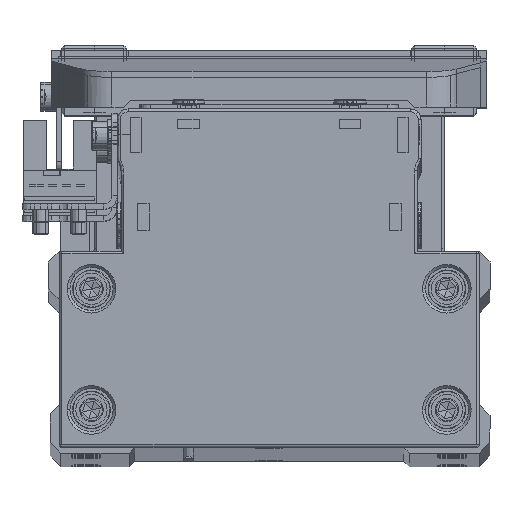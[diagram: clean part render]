
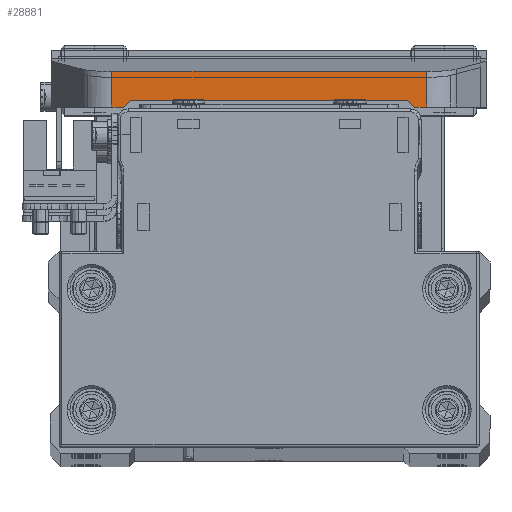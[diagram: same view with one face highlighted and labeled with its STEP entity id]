
A CAD part, top view. The second image highlights one B-rep face of the part: STEP entity #28881.
In plain terms, the highlighted planar face has unit normal (0, 0, 1) as drawn and (-1, 0, 0) by its records, which use the part's own axes.
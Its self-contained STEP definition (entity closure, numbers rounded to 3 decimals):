
#226 = ORIENTED_EDGE ( 'NONE', *, *, #28599, .T. ) ;
#544 = CARTESIAN_POINT ( 'NONE',  ( -67.5, 10.6, 27. ) ) ;
#556 = DIRECTION ( 'NONE',  ( 0., 0., -1. ) ) ;
#886 = ORIENTED_EDGE ( 'NONE', *, *, #20779, .T. ) ;
#1401 = EDGE_CURVE ( 'NONE', #34333, #23743, #7124, .T. ) ;
#2316 = DIRECTION ( 'NONE',  ( 0., 0., -1. ) ) ;
#2500 = EDGE_CURVE ( 'NONE', #3965, #30033, #17873, .T. ) ;
#3626 = PLANE ( 'NONE',  #11547 ) ;
#3777 = CARTESIAN_POINT ( 'NONE',  ( -67.5, 10.6, -29.225 ) ) ;
#3965 = VERTEX_POINT ( 'NONE', #22793 ) ;
#4756 = VECTOR ( 'NONE', #13052, 1000. ) ;
#5587 = ORIENTED_EDGE ( 'NONE', *, *, #28523, .T. ) ;
#6027 = VECTOR ( 'NONE', #32105, 1000. ) ;
#6073 = VECTOR ( 'NONE', #10527, 1000. ) ;
#7124 = LINE ( 'NONE', #19603, #6027 ) ;
#7669 = ORIENTED_EDGE ( 'NONE', *, *, #32387, .T. ) ;
#8670 = ORIENTED_EDGE ( 'NONE', *, *, #1401, .F. ) ;
#8853 = EDGE_CURVE ( 'NONE', #30033, #12210, #28622, .T. ) ;
#10161 = CARTESIAN_POINT ( 'NONE',  ( -67.5, 10.6, -27. ) ) ;
#10527 = DIRECTION ( 'NONE',  ( 0., 0., -1. ) ) ;
#10620 = LINE ( 'NONE', #23116, #25264 ) ;
#11226 = DIRECTION ( 'NONE',  ( 0., 1., 0. ) ) ;
#11244 = DIRECTION ( 'NONE',  ( 0., 0., -1. ) ) ;
#11547 = AXIS2_PLACEMENT_3D ( 'NONE', #16121, #28631, #556 ) ;
#12122 = CARTESIAN_POINT ( 'NONE',  ( -67.5, 4., -29.225 ) ) ;
#12210 = VERTEX_POINT ( 'NONE', #22318 ) ;
#13052 = DIRECTION ( 'NONE',  ( 0., -0.655, -0.756 ) ) ;
#13381 = EDGE_LOOP ( 'NONE', ( #35459, #886, #226, #5587, #8670, #7669, #34498, #37961 ) ) ;
#16093 = VECTOR ( 'NONE', #11244, 1000. ) ;
#16121 = CARTESIAN_POINT ( 'NONE',  ( -67.5, 10.6, 40.4 ) ) ;
#16649 = CARTESIAN_POINT ( 'NONE',  ( -67.5, 9.3, -25.5 ) ) ;
#17873 = LINE ( 'NONE', #30381, #18547 ) ;
#18547 = VECTOR ( 'NONE', #2316, 1000. ) ;
#19603 = CARTESIAN_POINT ( 'NONE',  ( -67.5, 4., 40.4 ) ) ;
#20779 = EDGE_CURVE ( 'NONE', #36853, #36527, #38192, .T. ) ;
#21557 = VECTOR ( 'NONE', #11226, 1000. ) ;
#22318 = CARTESIAN_POINT ( 'NONE',  ( -67.5, 9.3, 25.5 ) ) ;
#22659 = DIRECTION ( 'NONE',  ( 0., 0.655, -0.756 ) ) ;
#22793 = CARTESIAN_POINT ( 'NONE',  ( -67.5, 10.6, 29.225 ) ) ;
#23116 = CARTESIAN_POINT ( 'NONE',  ( -67.5, 4., -29.225 ) ) ;
#23743 = VERTEX_POINT ( 'NONE', #12122 ) ;
#25264 = VECTOR ( 'NONE', #35592, 1000. ) ;
#26102 = LINE ( 'NONE', #38573, #6073 ) ;
#26464 = CARTESIAN_POINT ( 'NONE',  ( -67.5, 4., 29.225 ) ) ;
#26803 = LINE ( 'NONE', #39267, #21557 ) ;
#26818 = LINE ( 'NONE', #39282, #16093 ) ;
#28053 = VERTEX_POINT ( 'NONE', #3777 ) ;
#28523 = EDGE_CURVE ( 'NONE', #28053, #23743, #10620, .T. ) ;
#28599 = EDGE_CURVE ( 'NONE', #36527, #28053, #26818, .T. ) ;
#28622 = LINE ( 'NONE', #544, #4756 ) ;
#28631 = DIRECTION ( 'NONE',  ( 1., 0., 0. ) ) ;
#28881 = ADVANCED_FACE ( 'NONE', ( #31709 ), #3626, .F. ) ;
#29142 = CARTESIAN_POINT ( 'NONE',  ( -67.5, 10.6, 27. ) ) ;
#30033 = VERTEX_POINT ( 'NONE', #29142 ) ;
#30381 = CARTESIAN_POINT ( 'NONE',  ( -67.5, 10.6, 40.4 ) ) ;
#31709 = FACE_OUTER_BOUND ( 'NONE', #13381, .T. ) ;
#32105 = DIRECTION ( 'NONE',  ( 0., 0., -1. ) ) ;
#32387 = EDGE_CURVE ( 'NONE', #34333, #3965, #26803, .T. ) ;
#32903 = CARTESIAN_POINT ( 'NONE',  ( -67.5, 10.6, -27. ) ) ;
#34333 = VERTEX_POINT ( 'NONE', #26464 ) ;
#34498 = ORIENTED_EDGE ( 'NONE', *, *, #2500, .T. ) ;
#35459 = ORIENTED_EDGE ( 'NONE', *, *, #38209, .T. ) ;
#35592 = DIRECTION ( 'NONE',  ( 0., -1., 0. ) ) ;
#36527 = VERTEX_POINT ( 'NONE', #32903 ) ;
#36853 = VERTEX_POINT ( 'NONE', #16649 ) ;
#37961 = ORIENTED_EDGE ( 'NONE', *, *, #8853, .T. ) ;
#38192 = LINE ( 'NONE', #10161, #38832 ) ;
#38209 = EDGE_CURVE ( 'NONE', #12210, #36853, #26102, .T. ) ;
#38573 = CARTESIAN_POINT ( 'NONE',  ( -67.5, 9.3, 25.5 ) ) ;
#38832 = VECTOR ( 'NONE', #22659, 1000. ) ;
#39267 = CARTESIAN_POINT ( 'NONE',  ( -67.5, 10.6, 29.225 ) ) ;
#39282 = CARTESIAN_POINT ( 'NONE',  ( -67.5, 10.6, 40.4 ) ) ;
